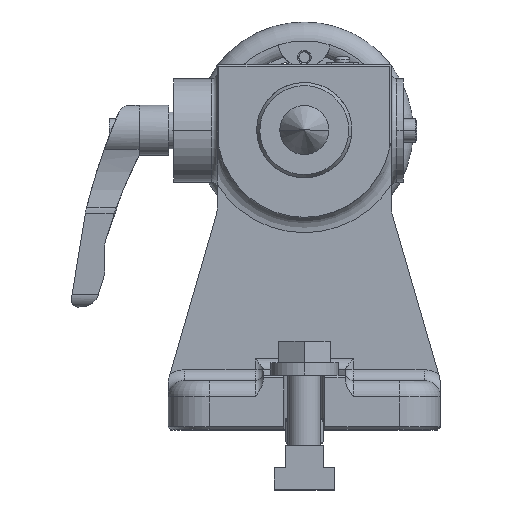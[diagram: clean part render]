
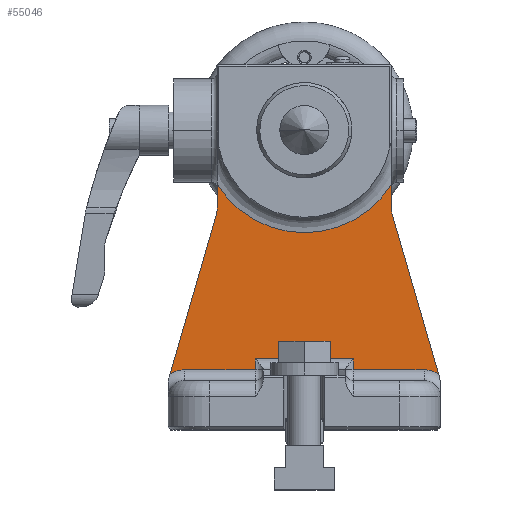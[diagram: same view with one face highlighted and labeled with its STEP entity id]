
A CAD part, top view. The second image highlights one B-rep face of the part: STEP entity #55046.
In plain terms, the highlighted planar face has unit normal (0, 0, 1) as drawn and (-1, 0, 0) by its records, which use the part's own axes.
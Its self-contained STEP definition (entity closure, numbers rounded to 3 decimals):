
#1407 = AXIS2_PLACEMENT_3D ( 'NONE', #28510, #51595, #51917 ) ;
#2774 = DIRECTION ( 'NONE',  ( 0., 0., -1. ) ) ;
#3695 = EDGE_CURVE ( 'NONE', #51333, #32688, #20095, .T. ) ;
#4447 = VERTEX_POINT ( 'NONE', #25632 ) ;
#4968 = CARTESIAN_POINT ( 'NONE',  ( 25., 12., -44. ) ) ;
#5822 = CARTESIAN_POINT ( 'NONE',  ( 25., 22., -44. ) ) ;
#6293 = VERTEX_POINT ( 'NONE', #39601 ) ;
#6488 = AXIS2_PLACEMENT_3D ( 'NONE', #18691, #18053, #27990 ) ;
#6782 = ORIENTED_EDGE ( 'NONE', *, *, #10058, .F. ) ;
#6789 = CARTESIAN_POINT ( 'NONE',  ( 25., 22., 44. ) ) ;
#7141 = VECTOR ( 'NONE', #59557, 1000. ) ;
#7581 = CARTESIAN_POINT ( 'NONE',  ( 25., 110., 0. ) ) ;
#7664 = DIRECTION ( 'NONE',  ( 0., 0., -1. ) ) ;
#7951 = AXIS2_PLACEMENT_3D ( 'NONE', #9969, #29550, #49103 ) ;
#8337 = CARTESIAN_POINT ( 'NONE',  ( 25., 22., 18. ) ) ;
#8447 = ORIENTED_EDGE ( 'NONE', *, *, #47562, .T. ) ;
#9083 = VERTEX_POINT ( 'NONE', #54689 ) ;
#9969 = CARTESIAN_POINT ( 'NONE',  ( 25., 81.422, -42. ) ) ;
#10058 = EDGE_CURVE ( 'NONE', #17196, #56664, #61494, .T. ) ;
#10393 = DIRECTION ( 'NONE',  ( 0., 0., -1. ) ) ;
#12110 = CARTESIAN_POINT ( 'NONE',  ( 25., 78.634, -32.397 ) ) ;
#13271 = AXIS2_PLACEMENT_3D ( 'NONE', #7581, #46688, #2774 ) ;
#13813 = ORIENTED_EDGE ( 'NONE', *, *, #36396, .T. ) ;
#14647 = VECTOR ( 'NONE', #17531, 1000. ) ;
#14740 = CARTESIAN_POINT ( 'NONE',  ( 25., 90.15, -32. ) ) ;
#15163 = DIRECTION ( 'NONE',  ( 0., 0., 1. ) ) ;
#15899 = CARTESIAN_POINT ( 'NONE',  ( 25., 159., 18. ) ) ;
#16676 = CIRCLE ( 'NONE', #6488, 10. ) ;
#17037 = CARTESIAN_POINT ( 'NONE',  ( 25., 159., 32. ) ) ;
#17196 = VERTEX_POINT ( 'NONE', #49749 ) ;
#17373 = VERTEX_POINT ( 'NONE', #52915 ) ;
#17531 = DIRECTION ( 'NONE',  ( 0., 0.96, 0.279 ) ) ;
#18053 = DIRECTION ( 'NONE',  ( 1., 0., 0. ) ) ;
#18691 = CARTESIAN_POINT ( 'NONE',  ( 25., 12., 44. ) ) ;
#20095 = LINE ( 'NONE', #15899, #7141 ) ;
#20250 = VERTEX_POINT ( 'NONE', #60607 ) ;
#20461 = ORIENTED_EDGE ( 'NONE', *, *, #60930, .F. ) ;
#20507 = VERTEX_POINT ( 'NONE', #39684 ) ;
#20598 = ORIENTED_EDGE ( 'NONE', *, *, #3695, .T. ) ;
#20871 = ORIENTED_EDGE ( 'NONE', *, *, #31433, .T. ) ;
#21115 = DIRECTION ( 'NONE',  ( 0., -0.96, 0.279 ) ) ;
#21898 = CIRCLE ( 'NONE', #32183, 10. ) ;
#23040 = CARTESIAN_POINT ( 'NONE',  ( 25., 26., 18. ) ) ;
#23654 = CARTESIAN_POINT ( 'NONE',  ( 25., 159., -32. ) ) ;
#23805 = CARTESIAN_POINT ( 'NONE',  ( 25., 78.634, 32.397 ) ) ;
#25085 = LINE ( 'NONE', #44616, #37746 ) ;
#25632 = CARTESIAN_POINT ( 'NONE',  ( 25., 81.422, -32. ) ) ;
#26587 = CIRCLE ( 'NONE', #13271, 37.657 ) ;
#27221 = DIRECTION ( 'NONE',  ( 1., 0., 0. ) ) ;
#27820 = LINE ( 'NONE', #23654, #60448 ) ;
#27925 = LINE ( 'NONE', #17037, #55940 ) ;
#27984 = CIRCLE ( 'NONE', #1407, 10. ) ;
#27990 = DIRECTION ( 'NONE',  ( 0., 0., -1. ) ) ;
#27993 = EDGE_CURVE ( 'NONE', #4447, #56664, #46842, .T. ) ;
#28510 = CARTESIAN_POINT ( 'NONE',  ( 25., 81.422, 42. ) ) ;
#29208 = VECTOR ( 'NONE', #57386, 1000. ) ;
#29550 = DIRECTION ( 'NONE',  ( 1., 0., 0. ) ) ;
#29603 = VECTOR ( 'NONE', #31643, 1000. ) ;
#29699 = ORIENTED_EDGE ( 'NONE', *, *, #49594, .T. ) ;
#29755 = CARTESIAN_POINT ( 'NONE',  ( 25., 22., -50. ) ) ;
#30120 = ORIENTED_EDGE ( 'NONE', *, *, #27993, .T. ) ;
#30746 = ORIENTED_EDGE ( 'NONE', *, *, #42928, .F. ) ;
#31433 = EDGE_CURVE ( 'NONE', #32688, #45291, #63317, .T. ) ;
#31606 = EDGE_CURVE ( 'NONE', #9083, #6293, #27925, .T. ) ;
#31643 = DIRECTION ( 'NONE',  ( 0., 1., 0. ) ) ;
#32183 = AXIS2_PLACEMENT_3D ( 'NONE', #4968, #54962, #10393 ) ;
#32688 = VERTEX_POINT ( 'NONE', #8337 ) ;
#33300 = LINE ( 'NONE', #29755, #51184 ) ;
#36303 = AXIS2_PLACEMENT_3D ( 'NONE', #42248, #27221, #7664 ) ;
#36396 = EDGE_CURVE ( 'NONE', #9083, #61371, #26587, .T. ) ;
#37746 = VECTOR ( 'NONE', #21115, 1000. ) ;
#39503 = ORIENTED_EDGE ( 'NONE', *, *, #31606, .F. ) ;
#39601 = CARTESIAN_POINT ( 'NONE',  ( 25., 81.422, 32. ) ) ;
#39684 = CARTESIAN_POINT ( 'NONE',  ( 25., 26., -18. ) ) ;
#40667 = EDGE_CURVE ( 'NONE', #17196, #58422, #21898, .T. ) ;
#42248 = CARTESIAN_POINT ( 'NONE',  ( 25., 159., -50. ) ) ;
#42928 = EDGE_CURVE ( 'NONE', #4447, #61371, #27820, .T. ) ;
#44324 = CARTESIAN_POINT ( 'NONE',  ( 25., 22., -50. ) ) ;
#44616 = CARTESIAN_POINT ( 'NONE',  ( 25., 174.815, 4.473 ) ) ;
#45291 = VERTEX_POINT ( 'NONE', #6789 ) ;
#45653 = VECTOR ( 'NONE', #15163, 1000. ) ;
#45703 = LINE ( 'NONE', #55671, #29603 ) ;
#45739 = ORIENTED_EDGE ( 'NONE', *, *, #50759, .T. ) ;
#46315 = ORIENTED_EDGE ( 'NONE', *, *, #60262, .T. ) ;
#46346 = EDGE_LOOP ( 'NONE', ( #50125, #46315, #45739, #20598, #20871, #8447, #20461, #29699, #39503, #13813, #30746, #30120, #6782, #52245 ) ) ;
#46688 = DIRECTION ( 'NONE',  ( 1., 0., 0. ) ) ;
#46842 = CIRCLE ( 'NONE', #7951, 10. ) ;
#47562 = EDGE_CURVE ( 'NONE', #45291, #17373, #16676, .T. ) ;
#48675 = DIRECTION ( 'NONE',  ( 0., 0., 1. ) ) ;
#49103 = DIRECTION ( 'NONE',  ( 0., 0., -1. ) ) ;
#49594 = EDGE_CURVE ( 'NONE', #59391, #6293, #27984, .T. ) ;
#49749 = CARTESIAN_POINT ( 'NONE',  ( 25., 20.495, -49.276 ) ) ;
#50125 = ORIENTED_EDGE ( 'NONE', *, *, #61683, .T. ) ;
#50759 = EDGE_CURVE ( 'NONE', #20507, #51333, #60618, .T. ) ;
#51184 = VECTOR ( 'NONE', #48675, 1000. ) ;
#51333 = VERTEX_POINT ( 'NONE', #23040 ) ;
#51595 = DIRECTION ( 'NONE',  ( 1., 0., 0. ) ) ;
#51917 = DIRECTION ( 'NONE',  ( 0., 0., -1. ) ) ;
#52175 = CARTESIAN_POINT ( 'NONE',  ( 25., 148.039, -12.247 ) ) ;
#52233 = FACE_OUTER_BOUND ( 'NONE', #46346, .T. ) ;
#52245 = ORIENTED_EDGE ( 'NONE', *, *, #40667, .T. ) ;
#52915 = CARTESIAN_POINT ( 'NONE',  ( 25., 20.495, 49.276 ) ) ;
#54689 = CARTESIAN_POINT ( 'NONE',  ( 25., 90.15, 32. ) ) ;
#54962 = DIRECTION ( 'NONE',  ( 1., 0., 0. ) ) ;
#55046 = ADVANCED_FACE ( 'NONE', ( #52233 ), #62181, .F. ) ;
#55671 = CARTESIAN_POINT ( 'NONE',  ( 25., 159., -18. ) ) ;
#55802 = CARTESIAN_POINT ( 'NONE',  ( 25., 26., -24.016 ) ) ;
#55866 = DIRECTION ( 'NONE',  ( 0., -1., 0. ) ) ;
#55940 = VECTOR ( 'NONE', #55866, 1000. ) ;
#56664 = VERTEX_POINT ( 'NONE', #12110 ) ;
#57386 = DIRECTION ( 'NONE',  ( 0., 0., 1. ) ) ;
#58422 = VERTEX_POINT ( 'NONE', #5822 ) ;
#59391 = VERTEX_POINT ( 'NONE', #23805 ) ;
#59557 = DIRECTION ( 'NONE',  ( 0., -1., 0. ) ) ;
#60262 = EDGE_CURVE ( 'NONE', #20250, #20507, #45703, .T. ) ;
#60448 = VECTOR ( 'NONE', #62796, 1000. ) ;
#60607 = CARTESIAN_POINT ( 'NONE',  ( 25., 22., -18. ) ) ;
#60618 = LINE ( 'NONE', #55802, #29208 ) ;
#60930 = EDGE_CURVE ( 'NONE', #59391, #17373, #25085, .T. ) ;
#61371 = VERTEX_POINT ( 'NONE', #14740 ) ;
#61494 = LINE ( 'NONE', #52175, #14647 ) ;
#61683 = EDGE_CURVE ( 'NONE', #58422, #20250, #33300, .T. ) ;
#62181 = PLANE ( 'NONE',  #36303 ) ;
#62796 = DIRECTION ( 'NONE',  ( 0., 1., 0. ) ) ;
#63317 = LINE ( 'NONE', #44324, #45653 ) ;
